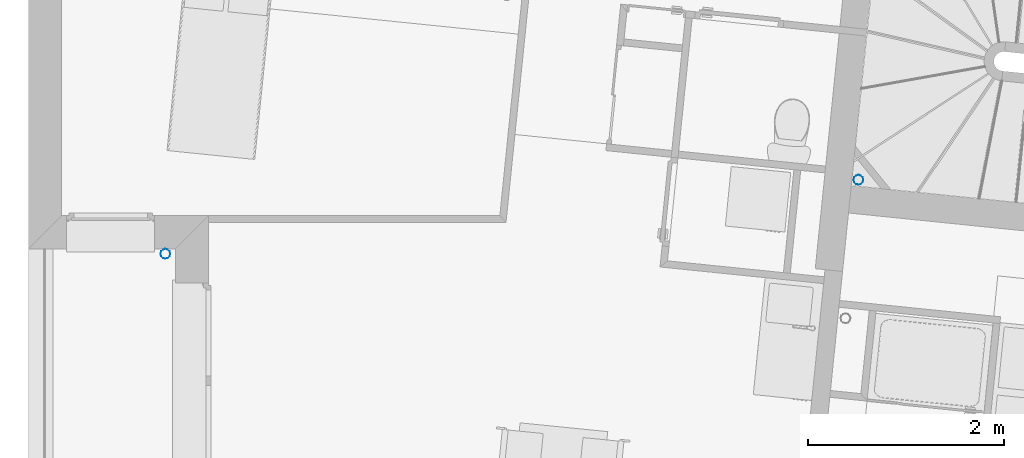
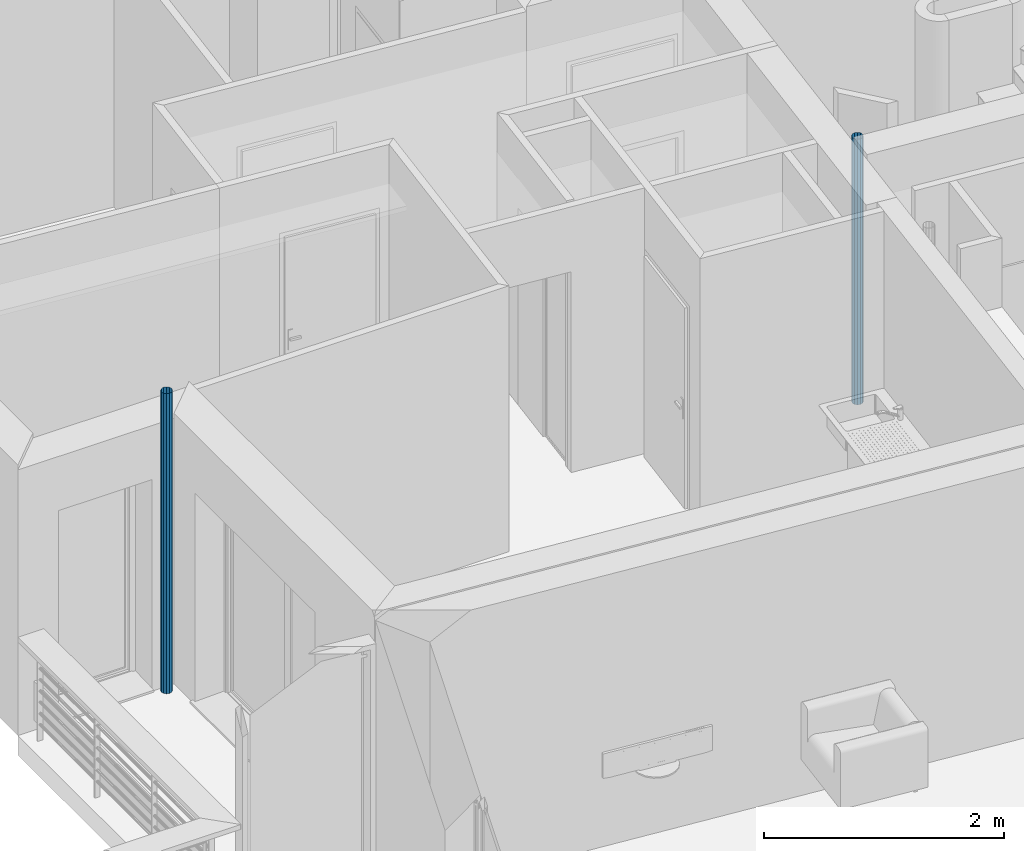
# One storey, part 80 of 164: 2 discrete accessories.
"""IFC2X3 building model written with IfcOpenShell, lengths in millimetres."""

from ifc_helpers import new_model, entity, si_unit, converted_unit, derived_unit, money_unit, direction, frame, origin_with_axes, place, context, subcontext, project, spatial, open_shell, surface_model, source, transform, mapped, type_object, element, save


model = new_model("IFC2X3")

# Units and contexts
model_context = context("Model", 3, precision=0.01, world=origin_with_axes(), true_north=direction((0.0, 1.0)))
body_context = subcontext(model_context, "Body", "Model", "MODEL_VIEW")
ifc_project = project(units=[si_unit("LENGTHUNIT", "METRE", prefix="MILLI"), si_unit("AREAUNIT", "SQUARE_METRE"), si_unit("VOLUMEUNIT", "CUBIC_METRE"), converted_unit("PLANEANGLEUNIT", "DEGREE", entity("IfcPlaneAngleMeasure", 0.0174532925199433), si_unit("PLANEANGLEUNIT", "RADIAN"), dimensions=[0, 0, 0, 0, 0, 0, 0]), money_unit("USD"), converted_unit("TIMEUNIT", "Year", entity("IfcTimeMeasure", 31557600.0), si_unit("TIMEUNIT", "SECOND"), dimensions=[0, 0, 1, 0, 0, 0, 0]), si_unit("MASSUNIT", "GRAM", prefix="KILO"), si_unit("THERMODYNAMICTEMPERATUREUNIT", "DEGREE_CELSIUS"), si_unit("LUMINOUSINTENSITYUNIT", "LUMEN"), si_unit("ENERGYUNIT", "JOULE", prefix="MEGA"), derived_unit("THERMALCONDUCTANCEUNIT", [(si_unit("POWERUNIT", "WATT"), 1), (si_unit("LENGTHUNIT", "METRE"), -1), (si_unit("THERMODYNAMICTEMPERATUREUNIT", "KELVIN"), -1)]), derived_unit("SPECIFICHEATCAPACITYUNIT", [(si_unit("ENERGYUNIT", "JOULE"), 1), (si_unit("MASSUNIT", "GRAM", prefix="KILO"), -1), (si_unit("THERMODYNAMICTEMPERATUREUNIT", "KELVIN"), -1)]), derived_unit("MASSDENSITYUNIT", [(si_unit("MASSUNIT", "GRAM", prefix="KILO"), 1), (si_unit("VOLUMEUNIT", "CUBIC_METRE"), -1)])], contexts=[model_context])

# Site, building, storey
site_placement = place(None, origin_with_axes())
site = spatial("IfcSite", under=ifc_project, at=site_placement, Name="Site", CompositionType="ELEMENT")
building_placement = place(site_placement, origin_with_axes())
building = spatial("IfcBuilding", under=site, at=building_placement, Name="Bâtiment", CompositionType="ELEMENT")
storey_placement = place(building_placement, frame((0.0, 0.0, 5750.0), z_axis=(0.0, 0.0, 1.0), x_axis=(1.0, 0.0, 0.0)))
storey = spatial("IfcBuildingStorey", under=building, at=storey_placement, Name="Etage1", CompositionType="ELEMENT", Elevation=5750.0)

# Discrete accessories
discrete_accessory_type = type_object("IfcDiscreteAccessoryType", Name="Tuyau descente 27")
shared_shape_1 = source(origin_with_axes(), body_context, "Body", "SurfaceModel", [
    surface_model("IfcShellBasedSurfaceModel", [(50.0, 0.0, 2700.0), (43.30127018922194, -25.0, 2700.0), (43.30127018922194, -25.0, 0.0), (50.0, 0.0, 0.0), (25.00000000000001, -43.30127018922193, 2700.0), (25.00000000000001, -43.30127018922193, 0.0), (43.30127018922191, 25.00000000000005, 2700.0), (43.30127018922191, 25.00000000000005, 0.0), (0.0, -50.0, 2700.0), (0.0, -50.0, 0.0), (24.99999999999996, 43.30127018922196, 2700.0), (24.99999999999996, 43.30127018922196, 0.0), (-24.99999999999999, -43.30127018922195, 2700.0), (-24.99999999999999, -43.30127018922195, 0.0), (0.0, 50.0, 2700.0), (0.0, 50.0, 0.0), (-43.30127018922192, -25.00000000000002, 2700.0), (-43.30127018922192, -25.00000000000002, 0.0), (-25.00000000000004, 43.30127018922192, 2700.0), (-25.00000000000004, 43.30127018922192, 0.0), (-50.0, 0.0, 2700.0), (-50.0, 0.0, 0.0), (-43.30127018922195, 24.99999999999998, 2700.0), (-43.30127018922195, 24.99999999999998, 0.0)], [open_shell([[[0, 1, 2, 3]], [[1, 4, 5, 2]], [[6, 0, 3, 7]], [[4, 8, 9, 5]], [[10, 6, 7, 11]], [[8, 12, 13, 9]], [[14, 10, 11, 15]], [[12, 16, 17, 13]], [[18, 14, 15, 19]], [[16, 20, 21, 17]], [[22, 18, 19, 23]], [[20, 22, 23, 21]]])]),
])
discrete_accessory_1_placement = place(storey_placement, frame((2225110.857773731, -616801.4339572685, 0.0), z_axis=(0.0, 0.0, 1.0), x_axis=(1.0, 0.0, 0.0)))
element("IfcDiscreteAccessory", 1, at=discrete_accessory_1_placement, inside=storey, type_object=discrete_accessory_type, Name="Obj.-318", context=body_context, shape_type="MappedRepresentation", body=[
    mapped(shared_shape_1, transform((0.0, 0.0, 0.0))),
])
shared_shape_2 = source(origin_with_axes(), body_context, "Body", "SurfaceModel", [
    surface_model("IfcShellBasedSurfaceModel", [(50.0, 0.0, 3050.0), (43.30127018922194, -25.0, 3050.0), (43.30127018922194, -25.0, 0.0), (50.0, 0.0, 0.0), (25.00000000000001, -43.30127018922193, 3050.0), (25.00000000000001, -43.30127018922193, 0.0), (43.30127018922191, 25.00000000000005, 3050.0), (43.30127018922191, 25.00000000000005, 0.0), (0.0, -50.0, 3050.0), (0.0, -50.0, 0.0), (24.99999999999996, 43.30127018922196, 3050.0), (24.99999999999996, 43.30127018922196, 0.0), (-24.99999999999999, -43.30127018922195, 3050.0), (-24.99999999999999, -43.30127018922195, 0.0), (0.0, 50.0, 3050.0), (0.0, 50.0, 0.0), (-43.30127018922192, -25.00000000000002, 3050.0), (-43.30127018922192, -25.00000000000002, 0.0), (-25.00000000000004, 43.30127018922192, 3050.0), (-25.00000000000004, 43.30127018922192, 0.0), (-50.0, 0.0, 3050.0), (-50.0, 0.0, 0.0), (-43.30127018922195, 24.99999999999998, 3050.0), (-43.30127018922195, 24.99999999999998, 0.0)], [open_shell([[[0, 1, 2, 3]], [[1, 4, 5, 2]], [[6, 0, 3, 7]], [[4, 8, 9, 5]], [[10, 6, 7, 11]], [[8, 12, 13, 9]], [[14, 10, 11, 15]], [[12, 16, 17, 13]], [[18, 14, 15, 19]], [[16, 20, 21, 17]], [[22, 18, 19, 23]], [[20, 22, 23, 21]]])]),
])
discrete_accessory_2_placement = place(storey_placement, frame((2218034.158908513, -617557.5058083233, 0.0), z_axis=(0.0, 0.0, 1.0), x_axis=(1.0, 0.0, 0.0)))
element("IfcDiscreteAccessory", 2, at=discrete_accessory_2_placement, inside=storey, type_object=discrete_accessory_type, Name="Obj.-318", context=body_context, shape_type="MappedRepresentation", body=[
    mapped(shared_shape_2, transform((0.0, 0.0, 0.0))),
])

save(model, "model.ifc")
